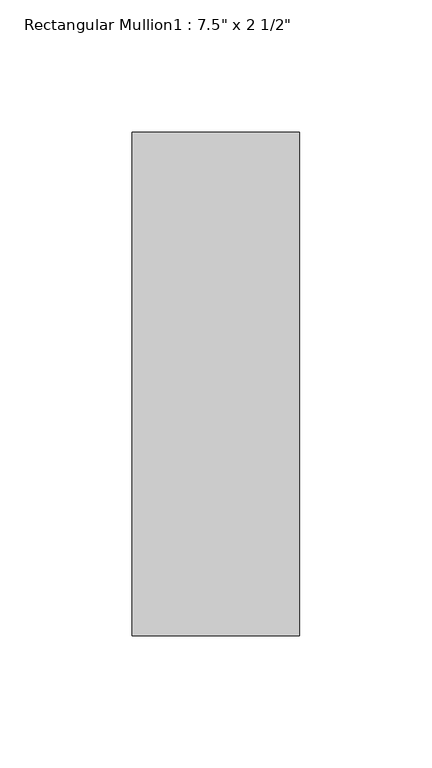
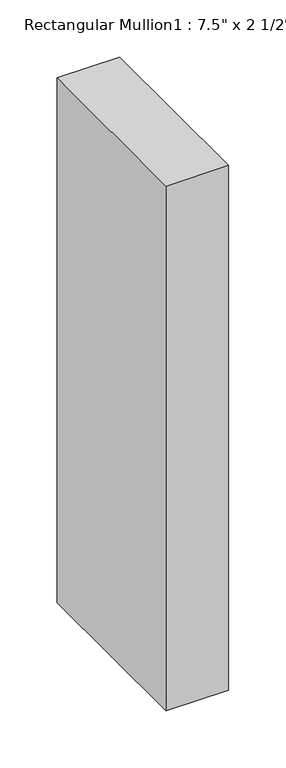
"""IFC4 building model written with IfcOpenShell, lengths in millimetres: member geometry."""

import ifcopenshell
import ifcopenshell.guid

model = None  # the IFC model being written
_history = None  # IfcOwnerHistory: only IFC2X3 demands one
_inside = {}  # id of a spatial element -> (the spatial element, [elements in it])
_under = {}  # id of a project, library or spatial element -> (it, [spatial elements below it])
_declared = {}  # id of a project -> (the project, [libraries it declares])
_typed = {}  # id of a type object -> (the type object, [elements of that type])
_made_of = {}  # id of a material, layer set ... -> (it, [elements and type objects made of it])


def new_model(schema):
    """Start an empty IFC model of exactly this schema.

    Asked for "IFC4X3", IfcOpenShell would pick the latest addendum, in which some entities
    have other attributes; the version numbers below select the first issue.
    IFC2X3 requires an IfcOwnerHistory on every rooted entity: one is made here for all.
    """
    global model, _history
    if schema == "IFC4X3":
        model = ifcopenshell.file(schema_version=(4, 3, 0, 0))
    else:
        model = ifcopenshell.file(schema=schema)
    _inside.clear()
    _under.clear()
    _declared.clear()
    _typed.clear()
    _made_of.clear()
    _history = None
    if model.schema == "IFC2X3":
        org = make("IfcOrganization", Name="unknown")
        user = make(
            "IfcPersonAndOrganization",
            ThePerson=make("IfcPerson", FamilyName="unknown"),
            TheOrganization=org,
        )
        app = make(
            "IfcApplication",
            ApplicationDeveloper=org,
            Version="unknown",
            ApplicationFullName="unknown",
            ApplicationIdentifier="unknown",
        )
        _history = make(
            "IfcOwnerHistory",
            OwningUser=user,
            OwningApplication=app,
            ChangeAction="ADDED",
            CreationDate=0,
        )
    return model


def make(cls, **values):
    """One entity of the class cls with the attributes given. An attribute that is None is left unset."""
    return model.create_entity(
        cls, **{name: value for name, value in values.items() if value is not None}
    )


def rooted(cls, **values):
    """An entity with a GlobalId (a new one), such as an element, a storey or a relation."""
    return make(cls, GlobalId=ifcopenshell.guid.new(), OwnerHistory=_history, **values)


def si_unit(unit_type, name, prefix=None):
    """IfcSIUnit, for example si_unit("LENGTHUNIT", "METRE", prefix="MILLI")."""
    return make("IfcSIUnit", UnitType=unit_type, Prefix=prefix, Name=name)


def assignment(units):
    """IfcUnitAssignment: the units of a project."""
    return None if units is None else make("IfcUnitAssignment", Units=units)


def point(xyz):
    """IfcCartesianPoint."""
    return None if xyz is None else make("IfcCartesianPoint", Coordinates=xyz)


def direction(xyz):
    """IfcDirection."""
    return None if xyz is None else make("IfcDirection", DirectionRatios=xyz)


def frame(location, z_axis=None, x_axis=None):
    """IfcAxis2Placement3D, a coordinate frame: its origin and axes. An axis left out is left unset."""
    return make(
        "IfcAxis2Placement3D",
        Location=point(location),
        Axis=direction(z_axis),
        RefDirection=direction(x_axis),
    )


def origin():
    """The frame at (0, 0, 0) with its axes left unset."""
    return frame((0.0, 0.0, 0.0))


def place(relative_to, where):
    """IfcLocalPlacement: puts the frame where relative to a parent placement (None: the world)."""
    return make(
        "IfcLocalPlacement", PlacementRelTo=relative_to, RelativePlacement=where
    )


def context(
    kind, dimensions, precision=None, world=None, true_north=None, identifier=None
):
    """IfcGeometricRepresentationContext, for example the 3D "Model" context."""
    return make(
        "IfcGeometricRepresentationContext",
        ContextIdentifier=identifier,
        ContextType=kind,
        CoordinateSpaceDimension=dimensions,
        Precision=precision,
        WorldCoordinateSystem=world,
        TrueNorth=true_north,
    )


def project(units=None, contexts=None):
    """IfcProject with its units and contexts."""
    return rooted(
        "IfcProject",
        Name="project",
        RepresentationContexts=contexts,
        UnitsInContext=assignment(units),
    )


def spatial(cls, under=None, at=None, **own):
    """A site, building, storey or space (cls), placed at a placement, below another one or the project."""
    s = rooted(cls, ObjectPlacement=at, **own)
    if under is not None:
        _under.setdefault(under.id(), (under, []))[1].append(s)
    return s


def polyline(points):
    """IfcPolyline through the points."""
    return make("IfcPolyline", Points=[point(p) for p in points])


def outline(outer, holes=None, kind="AREA"):
    """IfcArbitraryClosedProfileDef: a profile drawn as a closed curve; with holes, ...WithVoids."""
    if holes is None:
        return make("IfcArbitraryClosedProfileDef", ProfileType=kind, OuterCurve=outer)
    return make(
        "IfcArbitraryProfileDefWithVoids",
        ProfileType=kind,
        OuterCurve=outer,
        InnerCurves=holes,
    )


def extrude(swept, where, along, depth):
    """IfcExtrudedAreaSolid: the profile swept, set in the frame where, extruded along a direction by depth."""
    return make(
        "IfcExtrudedAreaSolid",
        SweptArea=swept,
        Position=where,
        ExtrudedDirection=direction(along),
        Depth=depth,
    )


def shape(context_of_items, identifier, shape_type, items):
    """IfcShapeRepresentation: the items that make up one representation, for example the "Body"."""
    return make(
        "IfcShapeRepresentation",
        ContextOfItems=context_of_items,
        RepresentationIdentifier=identifier,
        RepresentationType=shape_type,
        Items=items,
    )


def source(mapping_origin, context_of_items, identifier, shape_type, items):
    """IfcRepresentationMap: a shape defined once, which mapped items show again and again."""
    return make(
        "IfcRepresentationMap",
        MappingOrigin=mapping_origin,
        MappedRepresentation=shape(context_of_items, identifier, shape_type, items),
    )


def transform(
    local_origin,
    x_axis=None,
    y_axis=None,
    z_axis=None,
    scale=None,
    scale2=None,
    scale3=None,
    uniform=True,
):
    """IfcCartesianTransformationOperator3D, or its non-uniform kind. x_axis, y_axis, z_axis: its Axis1, 2, 3."""
    if uniform:
        return make(
            "IfcCartesianTransformationOperator3D",
            Axis1=direction(x_axis),
            Axis2=direction(y_axis),
            LocalOrigin=point(local_origin),
            Scale=scale,
            Axis3=direction(z_axis),
        )
    return make(
        "IfcCartesianTransformationOperator3DnonUniform",
        Axis1=direction(x_axis),
        Axis2=direction(y_axis),
        LocalOrigin=point(local_origin),
        Scale=scale,
        Axis3=direction(z_axis),
        Scale2=scale2,
        Scale3=scale3,
    )


def mapped(mapping_source, mapping_target):
    """IfcMappedItem: shows the shape of a source again, moved by a transform."""
    return make(
        "IfcMappedItem", MappingSource=mapping_source, MappingTarget=mapping_target
    )


def made_of(thing, what):
    """Note that an element or type object is made of a material, layer set ...; save() writes the relation."""
    if what is not None:
        _made_of.setdefault(what.id(), (what, []))[1].append(thing)
    return thing


def element(
    cls,
    number,
    at=None,
    inside=None,
    cuts=None,
    type_object=None,
    material=None,
    context=None,
    identifier="Body",
    shape_type=None,
    held_by="IfcProductDefinitionShape",
    body=None,
    shapes=None,
    **own,
):
    """One element of the class cls, such as IfcWall. Its Tag is "e" and its number.

    at: its placement. inside: the storey or other place that contains it. cuts: it is an
    opening in that element (IfcRelVoidsElement). A single representation is given by context,
    identifier, shape_type and body (its items); several are given by shapes. held_by: the class
    of the entity that holds the representations. save() writes the other relations.
    """
    e = rooted(cls, Tag="e%d" % number, ObjectPlacement=at, **own)
    if body is not None:
        shapes = [shape(context, identifier, shape_type, body)]
    if shapes is not None:
        e.Representation = make(held_by, Representations=shapes)
    if inside is not None:
        _inside.setdefault(inside.id(), (inside, []))[1].append(e)
    if cuts is not None:
        rooted(
            "IfcRelVoidsElement", RelatingBuildingElement=cuts, RelatedOpeningElement=e
        )
    if type_object is not None:
        _typed.setdefault(type_object.id(), (type_object, []))[1].append(e)
    return made_of(e, material)


def aggregate(whole, parts):
    """IfcRelAggregates: a whole, such as a stair, and the parts it consists of."""
    return rooted("IfcRelAggregates", RelatingObject=whole, RelatedObjects=parts)


def save(model, path):
    """Write the relations noted so far, then the file.

    IfcRelAggregates (storeys below a building ...), IfcRelContainedInSpatialStructure (elements
    in a storey), IfcRelDefinesByType, IfcRelAssociatesMaterial and IfcRelDeclares: one each for
    every whole, place, type object, material and project.
    """
    for whole, parts in _under.values():
        aggregate(whole, parts)
    for where, things in _inside.values():
        rooted(
            "IfcRelContainedInSpatialStructure",
            RelatedElements=things,
            RelatingStructure=where,
        )
    for kind, things in _typed.values():
        rooted("IfcRelDefinesByType", RelatedObjects=things, RelatingType=kind)
    for what, things in _made_of.values():
        rooted("IfcRelAssociatesMaterial", RelatedObjects=things, RelatingMaterial=what)
    for by, libraries in _declared.values():
        rooted("IfcRelDeclares", RelatingContext=by, RelatedDefinitions=libraries)
    model.write(path)


def member_f0248cff(model_context):
    return source(origin(), model_context, "Body", "SweptSolid", [
        extrude(outline(polyline([(-63.5, -165.1), (-63.5, 25.4), (0.0, 25.4), (0.0, -165.1), (-63.5, -165.1)])), frame((0.0, 0.0, -560.4849571), z_axis=(0.0, 0.0, 1.0), x_axis=(1.0, 0.0, 0.0)), (0.0, 0.0, 1.0), 560.4849571),
    ])


if __name__ == "__main__":
    model = new_model("IFC4")
    model_context = context("Model", 3, world=origin())
    ifc_project = project(units=[si_unit("LENGTHUNIT", "METRE", prefix="MILLI")], contexts=[model_context])
    site = spatial("IfcSite", under=ifc_project)
    building = spatial("IfcBuilding", under=site)
    placement = place(None, origin())
    member_shape = member_f0248cff(model_context)
    element("IfcMember", 1, ObjectType="Rectangular Mullion1 : 7.5\" x 2 1/2\"", at=placement, inside=building, context=model_context, shape_type="MappedRepresentation", body=[
        mapped(member_shape, transform((0.0, 0.0, 0.0), x_axis=(1.0, 0.0, 0.0), y_axis=(0.0, 1.0, 0.0), z_axis=(0.0, 0.0, 1.0))),
    ])
    save(model, "model.ifc")
